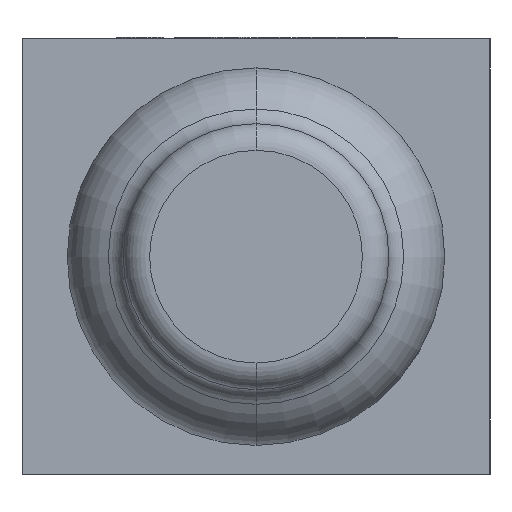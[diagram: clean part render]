
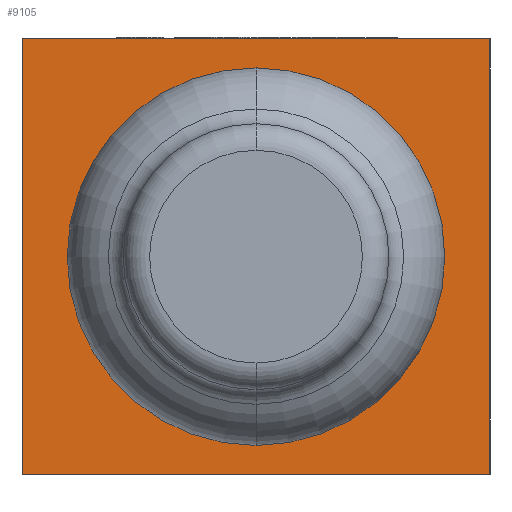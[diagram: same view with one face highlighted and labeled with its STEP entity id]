
A CAD part, front view. The second image highlights one B-rep face of the part: STEP entity #9105.
In plain terms, the highlighted planar face has unit normal (0, -1, 0).
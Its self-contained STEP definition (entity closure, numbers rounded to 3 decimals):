
#724 = DIRECTION ( 'NONE',  ( 0., 0., -1. ) ) ;
#873 = EDGE_CURVE ( 'NONE', #4987, #5789, #9713, .T. ) ;
#989 = CARTESIAN_POINT ( 'NONE',  ( 22., -20.5, 20.5 ) ) ;
#1069 = CARTESIAN_POINT ( 'NONE',  ( -22., -20.5, 20.5 ) ) ;
#1078 = AXIS2_PLACEMENT_3D ( 'NONE', #1422, #1458, #3094 ) ;
#1422 = CARTESIAN_POINT ( 'NONE',  ( -22., -20.5, 20.5 ) ) ;
#1458 = DIRECTION ( 'NONE',  ( 0., 1., 0. ) ) ;
#3094 = DIRECTION ( 'NONE',  ( 0., 0., 1. ) ) ;
#3219 = CARTESIAN_POINT ( 'NONE',  ( -22., -20.5, 20.5 ) ) ;
#3539 = EDGE_LOOP ( 'NONE', ( #4738, #9877, #8003, #8045 ) ) ;
#3840 = PLANE ( 'NONE',  #1078 ) ;
#3873 = LINE ( 'NONE', #9858, #5248 ) ;
#4312 = FACE_OUTER_BOUND ( 'NONE', #3539, .T. ) ;
#4648 = VERTEX_POINT ( 'NONE', #10097 ) ;
#4738 = ORIENTED_EDGE ( 'NONE', *, *, #6309, .T. ) ;
#4987 = VERTEX_POINT ( 'NONE', #5814 ) ;
#5011 = DIRECTION ( 'NONE',  ( 0., 0., -1. ) ) ;
#5109 = DIRECTION ( 'NONE',  ( 1., 0., 0. ) ) ;
#5248 = VECTOR ( 'NONE', #5109, 1000. ) ;
#5789 = VERTEX_POINT ( 'NONE', #9977 ) ;
#5814 = CARTESIAN_POINT ( 'NONE',  ( -22., -20.5, 20.5 ) ) ;
#6209 = EDGE_CURVE ( 'NONE', #4987, #6282, #7243, .T. ) ;
#6282 = VERTEX_POINT ( 'NONE', #989 ) ;
#6309 = EDGE_CURVE ( 'NONE', #5789, #4648, #3873, .T. ) ;
#6923 = VECTOR ( 'NONE', #724, 1000. ) ;
#7040 = LINE ( 'NONE', #7932, #6923 ) ;
#7243 = LINE ( 'NONE', #3219, #9102 ) ;
#7507 = EDGE_CURVE ( 'NONE', #6282, #4648, #7040, .T. ) ;
#7598 = VECTOR ( 'NONE', #5011, 1000. ) ;
#7932 = CARTESIAN_POINT ( 'NONE',  ( 22., -20.5, 20.5 ) ) ;
#8003 = ORIENTED_EDGE ( 'NONE', *, *, #6209, .F. ) ;
#8025 = DIRECTION ( 'NONE',  ( 1., 0., 0. ) ) ;
#8045 = ORIENTED_EDGE ( 'NONE', *, *, #873, .T. ) ;
#9102 = VECTOR ( 'NONE', #8025, 1000. ) ;
#9105 = ADVANCED_FACE ( 'NONE', ( #4312 ), #3840, .F. ) ;
#9713 = LINE ( 'NONE', #1069, #7598 ) ;
#9858 = CARTESIAN_POINT ( 'NONE',  ( -22., -20.5, -20.5 ) ) ;
#9877 = ORIENTED_EDGE ( 'NONE', *, *, #7507, .F. ) ;
#9977 = CARTESIAN_POINT ( 'NONE',  ( -22., -20.5, -20.5 ) ) ;
#10097 = CARTESIAN_POINT ( 'NONE',  ( 22., -20.5, -20.5 ) ) ;
